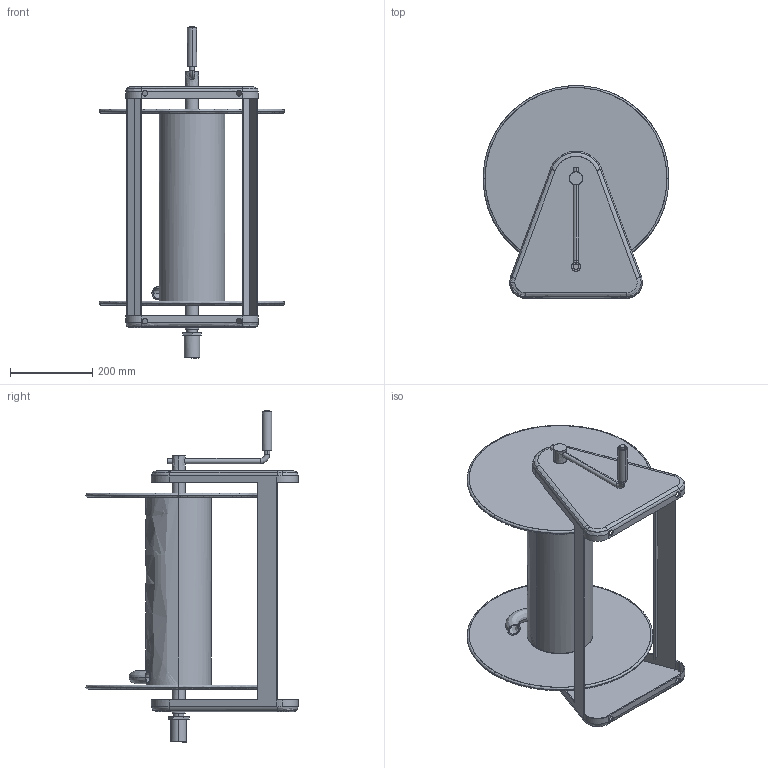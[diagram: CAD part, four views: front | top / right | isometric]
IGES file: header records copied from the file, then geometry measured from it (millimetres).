
Start section: Comment
Global section: file name: CA3X118 X.igs; native system:  By UGS Corp.; preprocessor: XPlus GENERIC/IGES 3.0; author: Author; organization: Title; date: 20121228.151832; units: millimetre
Bounding box: 450.85 x 514.7 x 805.69 mm (x, y, z)
Surface area: 1740567.9 mm2 (no closed solid volume)
Topology: 0 solids, 0 shells, 142 faces, 692 edges, 692 vertices
Faces by surface type: bspline 142
